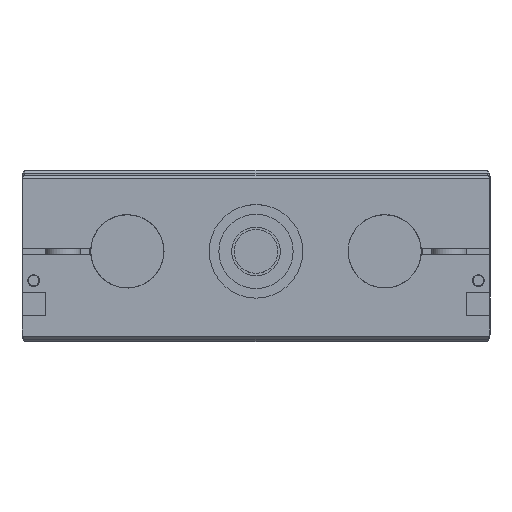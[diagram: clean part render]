
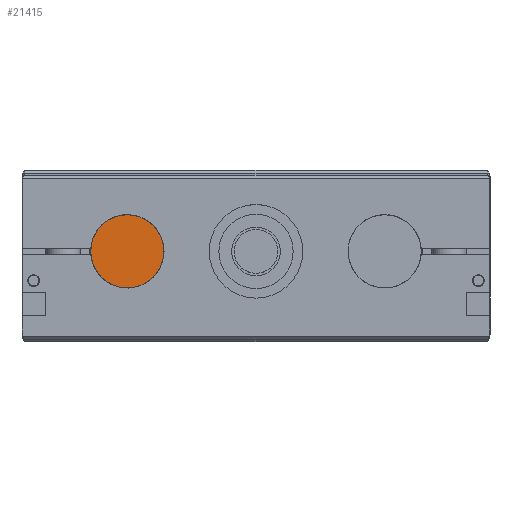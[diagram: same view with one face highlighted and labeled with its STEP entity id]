
A CAD part, top view. The second image highlights one B-rep face of the part: STEP entity #21415.
In plain terms, the highlighted planar face has unit normal (0, 0, 1) as drawn and (1, 0, 0) by its records, which use the part's own axes.
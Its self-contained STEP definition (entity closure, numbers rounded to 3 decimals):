
#2208 = DIRECTION ( 'NONE',  ( 1., 0., 0. ) ) ;
#2446 = CIRCLE ( 'NONE', #13824, 12.5 ) ;
#7117 = VERTEX_POINT ( 'NONE', #27578 ) ;
#11181 = DIRECTION ( 'NONE',  ( 1., 0., 0. ) ) ;
#11707 = ORIENTED_EDGE ( 'NONE', *, *, #55015, .T. ) ;
#11708 = CARTESIAN_POINT ( 'NONE',  ( 245., 30., 44. ) ) ;
#12027 = AXIS2_PLACEMENT_3D ( 'NONE', #11708, #2208, #57085 ) ;
#13214 = DIRECTION ( 'NONE',  ( 0., 0., -1. ) ) ;
#13824 = AXIS2_PLACEMENT_3D ( 'NONE', #28510, #11181, #19262 ) ;
#14854 = EDGE_LOOP ( 'NONE', ( #57888, #11707 ) ) ;
#19262 = DIRECTION ( 'NONE',  ( 0., 0., -1. ) ) ;
#21415 = ADVANCED_FACE ( 'NONE', ( #38314 ), #52602, .T. ) ;
#23859 = CIRCLE ( 'NONE', #38200, 12.5 ) ;
#26071 = CARTESIAN_POINT ( 'NONE',  ( 245., 30., 44. ) ) ;
#26728 = CARTESIAN_POINT ( 'NONE',  ( 245., 30., 56.5 ) ) ;
#27578 = CARTESIAN_POINT ( 'NONE',  ( 245., 30., 31.5 ) ) ;
#28510 = CARTESIAN_POINT ( 'NONE',  ( 245., 30., 44. ) ) ;
#31138 = DIRECTION ( 'NONE',  ( 1., 0., 0. ) ) ;
#31858 = EDGE_CURVE ( 'NONE', #7117, #42435, #23859, .T. ) ;
#38200 = AXIS2_PLACEMENT_3D ( 'NONE', #26071, #31138, #13214 ) ;
#38314 = FACE_OUTER_BOUND ( 'NONE', #14854, .T. ) ;
#42435 = VERTEX_POINT ( 'NONE', #26728 ) ;
#52602 = PLANE ( 'NONE',  #12027 ) ;
#55015 = EDGE_CURVE ( 'NONE', #42435, #7117, #2446, .T. ) ;
#57085 = DIRECTION ( 'NONE',  ( 0., 0., -1. ) ) ;
#57888 = ORIENTED_EDGE ( 'NONE', *, *, #31858, .T. ) ;
